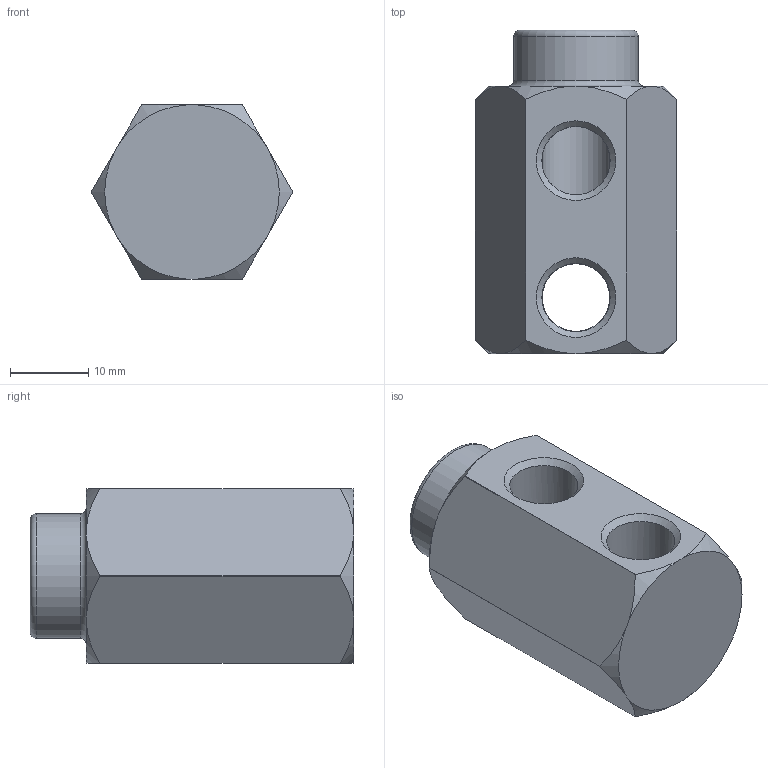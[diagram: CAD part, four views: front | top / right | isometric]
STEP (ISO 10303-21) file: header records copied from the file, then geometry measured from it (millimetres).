
FILE_DESCRIPTION(/* description */ (''),/* implementation_level */ '2;1');
FILE_NAME(/* name */ 'C:/Users/drich/Desktop/186H-HFT v1.step',/* time_stamp */ '2020-01-10T20:26:04-06:00',/* author */ (''),/* organization */ (''),/* preprocessor_version */ 'ST-DEVELOPER v18',/* originating_system */ 'Autodesk Translation Framework v8.12.0.6',/* authorisation */ '');
FILE_SCHEMA (('AUTOMOTIVE_DESIGN { 1 0 10303 214 3 1 1 }'));
Length unit declared in the file: inch
Products named in the file (2): 186H-HFT; 186H
Assembly tree (1 placements, depth 2):
  186H-HFT
    186H
Bounding box: 25.65 x 41.25 x 22.23 mm (x, y, z)
Volume: 12640 mm3; surface area: 4969.8 mm2
Topology: 1 solids, 1 shells, 44 faces, 126 edges, 84 vertices
Faces by surface type: cone 21, cylinder 12, plane 9, torus 2
Full cylindrical faces by diameter (mm): 5.474 x1, 8.707 x4, 15.875 x1
Entity records: 1564 total; most frequent: CARTESIAN_POINT 369, ORIENTED_EDGE 252, DIRECTION 245, EDGE_CURVE 126, AXIS2_PLACEMENT_3D 105, VERTEX_POINT 84, CIRCLE 56, EDGE_LOOP 50
